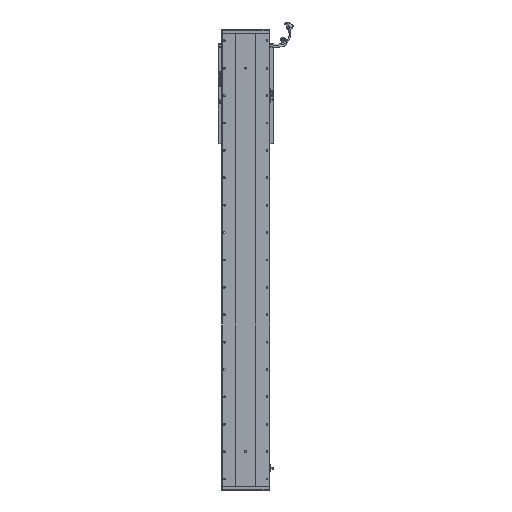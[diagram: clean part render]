
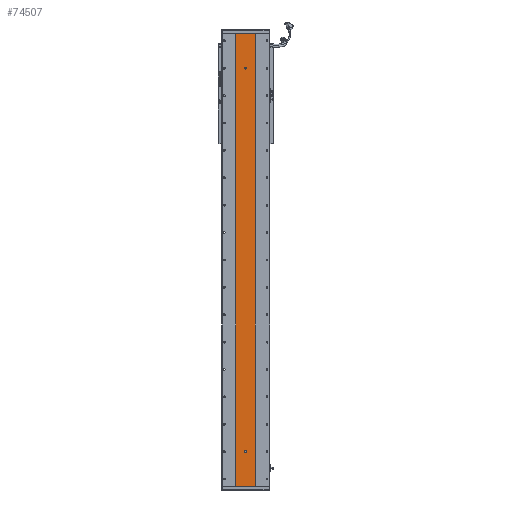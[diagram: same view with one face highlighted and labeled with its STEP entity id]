
A CAD part, front view. The second image highlights one B-rep face of the part: STEP entity #74507.
In plain terms, the highlighted planar face has unit normal (0, -1, 0).
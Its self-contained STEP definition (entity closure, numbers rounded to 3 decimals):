
#1057 = CARTESIAN_POINT ( 'NONE',  ( 3280.529, 1415.701, 1526. ) ) ;
#2060 = LINE ( 'NONE', #89627, #73236 ) ;
#4287 = FACE_BOUND ( 'NONE', #64366, .T. ) ;
#5048 = VECTOR ( 'NONE', #63409, 1000. ) ;
#5580 = CARTESIAN_POINT ( 'NONE',  ( 3277.529, 1415.701, 127.5 ) ) ;
#6448 = DIRECTION ( 'NONE',  ( 0., 0., 1. ) ) ;
#7167 = DIRECTION ( 'NONE',  ( 0., 1., 0. ) ) ;
#7231 = CARTESIAN_POINT ( 'NONE',  ( 3277.529, 1415.701, 124.5 ) ) ;
#7607 = EDGE_CURVE ( 'NONE', #49095, #24483, #96066, .T. ) ;
#8142 = VERTEX_POINT ( 'NONE', #54818 ) ;
#8406 = CIRCLE ( 'NONE', #94738, 3. ) ;
#8673 = CARTESIAN_POINT ( 'NONE',  ( 3316.311, 1415.701, 1652. ) ) ;
#11549 = ORIENTED_EDGE ( 'NONE', *, *, #24164, .F. ) ;
#12160 = ORIENTED_EDGE ( 'NONE', *, *, #109250, .F. ) ;
#12243 = FACE_BOUND ( 'NONE', #31723, .T. ) ;
#14345 = VERTEX_POINT ( 'NONE', #42370 ) ;
#15242 = VECTOR ( 'NONE', #48354, 1000. ) ;
#15293 = PLANE ( 'NONE',  #76119 ) ;
#16838 = ORIENTED_EDGE ( 'NONE', *, *, #64564, .F. ) ;
#18958 = CARTESIAN_POINT ( 'NONE',  ( 3280.529, 1415.701, 124.5 ) ) ;
#20857 = CARTESIAN_POINT ( 'NONE',  ( 3280.529, 1415.701, 121.5 ) ) ;
#23302 = ORIENTED_EDGE ( 'NONE', *, *, #107186, .F. ) ;
#24164 = EDGE_CURVE ( 'NONE', #8142, #14345, #59685, .T. ) ;
#24483 = VERTEX_POINT ( 'NONE', #85777 ) ;
#25665 = DIRECTION ( 'NONE',  ( 0., 0., -1. ) ) ;
#26773 = DIRECTION ( 'NONE',  ( 1., 0., 0. ) ) ;
#29415 = DIRECTION ( 'NONE',  ( 0., -1., 0. ) ) ;
#31723 = EDGE_LOOP ( 'NONE', ( #16838, #46381, #11549, #12160, #23302 ) ) ;
#32728 = EDGE_CURVE ( 'NONE', #91195, #45684, #108077, .T. ) ;
#35389 = EDGE_CURVE ( 'NONE', #24483, #83403, #97024, .T. ) ;
#35846 = EDGE_CURVE ( 'NONE', #49095, #56330, #2060, .T. ) ;
#36721 = EDGE_CURVE ( 'NONE', #45684, #91195, #8406, .T. ) ;
#39153 = DIRECTION ( 'NONE',  ( 0., 0., -1. ) ) ;
#40367 = DIRECTION ( 'NONE',  ( 0., 0., -1. ) ) ;
#42370 = CARTESIAN_POINT ( 'NONE',  ( 3277.529, 1415.701, 127.5 ) ) ;
#42446 = CARTESIAN_POINT ( 'NONE',  ( 3244.748, 1415.701, 0. ) ) ;
#45684 = VERTEX_POINT ( 'NONE', #105545 ) ;
#46236 = EDGE_CURVE ( 'NONE', #14345, #53401, #106122, .T. ) ;
#46381 = ORIENTED_EDGE ( 'NONE', *, *, #46236, .F. ) ;
#46925 = VERTEX_POINT ( 'NONE', #79040 ) ;
#47090 = ORIENTED_EDGE ( 'NONE', *, *, #35389, .F. ) ;
#47968 = DIRECTION ( 'NONE',  ( 0., -1., 0. ) ) ;
#48354 = DIRECTION ( 'NONE',  ( 0., 0., -1. ) ) ;
#49095 = VERTEX_POINT ( 'NONE', #98821 ) ;
#51146 = VERTEX_POINT ( 'NONE', #20857 ) ;
#51981 = ORIENTED_EDGE ( 'NONE', *, *, #36721, .F. ) ;
#53058 = VECTOR ( 'NONE', #83324, 1000. ) ;
#53401 = VERTEX_POINT ( 'NONE', #7231 ) ;
#54029 = AXIS2_PLACEMENT_3D ( 'NONE', #82146, #47968, #39153 ) ;
#54427 = EDGE_CURVE ( 'NONE', #56330, #83403, #104405, .T. ) ;
#54818 = CARTESIAN_POINT ( 'NONE',  ( 3283.529, 1415.701, 127.5 ) ) ;
#56330 = VERTEX_POINT ( 'NONE', #42446 ) ;
#59029 = CARTESIAN_POINT ( 'NONE',  ( 3283.529, 1415.701, 127.5 ) ) ;
#59685 = CIRCLE ( 'NONE', #54029, 3. ) ;
#59993 = DIRECTION ( 'NONE',  ( 0., 0., -1. ) ) ;
#60771 = CARTESIAN_POINT ( 'NONE',  ( 3280.529, 1415.701, 124.5 ) ) ;
#61980 = AXIS2_PLACEMENT_3D ( 'NONE', #79810, #29415, #96782 ) ;
#63409 = DIRECTION ( 'NONE',  ( 1., 0., 0. ) ) ;
#64366 = EDGE_LOOP ( 'NONE', ( #51981, #83607 ) ) ;
#64564 = EDGE_CURVE ( 'NONE', #53401, #51146, #80814, .T. ) ;
#68881 = FACE_OUTER_BOUND ( 'NONE', #96890, .T. ) ;
#69017 = DIRECTION ( 'NONE',  ( 0., 0., -1. ) ) ;
#69194 = DIRECTION ( 'NONE',  ( 0., -1., 0. ) ) ;
#70141 = LINE ( 'NONE', #59029, #53058 ) ;
#70667 = DIRECTION ( 'NONE',  ( 0., -1., 0. ) ) ;
#73236 = VECTOR ( 'NONE', #40367, 1000. ) ;
#74507 = ADVANCED_FACE ( 'NONE', ( #12243, #4287, #68881 ), #15293, .F. ) ;
#74625 = VECTOR ( 'NONE', #25665, 1000. ) ;
#75972 = CIRCLE ( 'NONE', #90084, 3. ) ;
#76119 = AXIS2_PLACEMENT_3D ( 'NONE', #82664, #7167, #6448 ) ;
#78507 = ORIENTED_EDGE ( 'NONE', *, *, #7607, .F. ) ;
#79040 = CARTESIAN_POINT ( 'NONE',  ( 3283.529, 1415.701, 124.5 ) ) ;
#79810 = CARTESIAN_POINT ( 'NONE',  ( 3280.529, 1415.701, 1526. ) ) ;
#80814 = CIRCLE ( 'NONE', #98381, 3. ) ;
#82146 = CARTESIAN_POINT ( 'NONE',  ( 3280.529, 1415.701, 127.5 ) ) ;
#82664 = CARTESIAN_POINT ( 'NONE',  ( 3244.748, 1415.701, 1652. ) ) ;
#83324 = DIRECTION ( 'NONE',  ( 0., 0., 1. ) ) ;
#83403 = VERTEX_POINT ( 'NONE', #96448 ) ;
#83607 = ORIENTED_EDGE ( 'NONE', *, *, #32728, .F. ) ;
#85617 = DIRECTION ( 'NONE',  ( 0., -1., 0. ) ) ;
#85777 = CARTESIAN_POINT ( 'NONE',  ( 3316.311, 1415.701, 1652. ) ) ;
#88874 = ORIENTED_EDGE ( 'NONE', *, *, #54427, .T. ) ;
#89627 = CARTESIAN_POINT ( 'NONE',  ( 3244.748, 1415.701, 1652. ) ) ;
#90084 = AXIS2_PLACEMENT_3D ( 'NONE', #18958, #85617, #69017 ) ;
#90190 = CARTESIAN_POINT ( 'NONE',  ( 3280.529, 1415.701, 1529. ) ) ;
#91195 = VERTEX_POINT ( 'NONE', #90190 ) ;
#93052 = CARTESIAN_POINT ( 'NONE',  ( 3244.748, 1415.701, 0. ) ) ;
#94738 = AXIS2_PLACEMENT_3D ( 'NONE', #1057, #70667, #59993 ) ;
#96066 = LINE ( 'NONE', #105012, #5048 ) ;
#96448 = CARTESIAN_POINT ( 'NONE',  ( 3316.311, 1415.701, 0. ) ) ;
#96782 = DIRECTION ( 'NONE',  ( 0., 0., -1. ) ) ;
#96890 = EDGE_LOOP ( 'NONE', ( #88874, #47090, #78507, #108246 ) ) ;
#97024 = LINE ( 'NONE', #8673, #74625 ) ;
#98381 = AXIS2_PLACEMENT_3D ( 'NONE', #60771, #69194, #103103 ) ;
#98821 = CARTESIAN_POINT ( 'NONE',  ( 3244.748, 1415.701, 1652. ) ) ;
#99171 = VECTOR ( 'NONE', #26773, 1000. ) ;
#103103 = DIRECTION ( 'NONE',  ( 0., 0., -1. ) ) ;
#104405 = LINE ( 'NONE', #93052, #99171 ) ;
#105012 = CARTESIAN_POINT ( 'NONE',  ( 3244.748, 1415.701, 1652. ) ) ;
#105545 = CARTESIAN_POINT ( 'NONE',  ( 3280.529, 1415.701, 1523. ) ) ;
#106122 = LINE ( 'NONE', #5580, #15242 ) ;
#107186 = EDGE_CURVE ( 'NONE', #51146, #46925, #75972, .T. ) ;
#108077 = CIRCLE ( 'NONE', #61980, 3. ) ;
#108246 = ORIENTED_EDGE ( 'NONE', *, *, #35846, .T. ) ;
#109250 = EDGE_CURVE ( 'NONE', #46925, #8142, #70141, .T. ) ;
